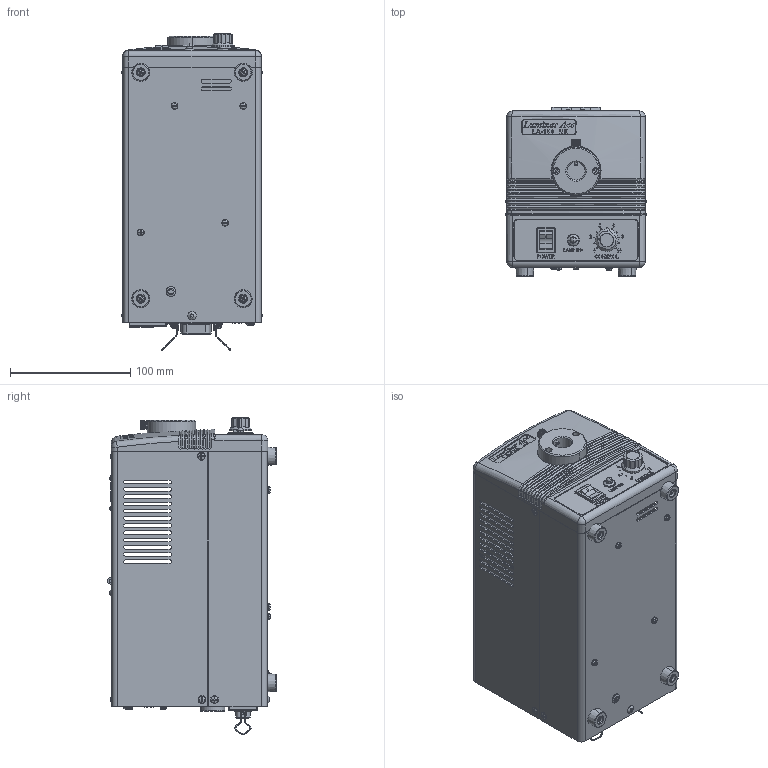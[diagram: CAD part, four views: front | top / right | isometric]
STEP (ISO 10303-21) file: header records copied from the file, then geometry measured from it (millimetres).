
FILE_DESCRIPTION (( 'STEP AP203' ), '1' );
FILE_NAME ('新LA-150UE.STEP', '2022-02-02T05:10:51', ( '' ), ( '' ), 'SwSTEP 2.0', 'SolidWorks 2021', '' );
FILE_SCHEMA (( 'CONFIG_CONTROL_DESIGN' ));
Length unit declared in the file: millimetre
Products named in the file (52): M3×5L十字穴付ﾄﾗｽ; 385-215-3【背面化粧ﾊﾟﾈﾙ】; CB-1KK-3MM【LEX】; 【LA-150UE】銘板; 蓋止めTL-15A; SL10K2-5-Z_r; LEDﾌﾞﾗｹｯﾄDB-40-NL-BRｻﾄｰﾊﾟｰﾂ; AC翌痧顛C-P11CS35(EDK); 奧巭傔TL-15A谑薨; 385-214-0亂攚柺蔬荣亃; T1050-112-0【ﾎﾞｯｸｽ】; 奧巭傔TL-15A棘棠; 小形丸平座金M3_3P用; ｷｬｯﾌﾟｽｸﾘｭｰM3x10L黒ｸﾛﾒｰﾄ; 兽葝缷郙3_3P梡; 无丨把RV16YN15SB103搶嫗航咏揹婡; M3×5L十字穴付丸皿小ﾈｼﾞ; 線材; 03-00板金; ﾛｯｶｰｽｲｯﾁﾎﾞﾃﾞｨ; 挶斣TH-TM-76棘棠; FH-B12乮汰敖尬倮迠O榞乯; 新LA-150UE; 十字穴付ﾅﾍﾞ小ﾈｼﾞM4x35L; 蓋; 345-230-0【ｽｲｯﾁﾊﾟﾈﾙ】; 挶斣TH-TM-76蔬奥1; SDS-101D-3-C-A【ｽﾗｲﾄﾞｽｲｯﾁ】ｼﾝﾃﾞﾝ; T99-116-6【蓋】; 枌袉暊睕俅紕NS_A5-2; BU-4805-Bﾌﾟﾗ足; 蓋止めTL-15Aﾗｯﾁ; 挶斣TH-TM-76蔬奥2; ﾅﾍﾞ小ﾈｼﾞM3×6L3P用; T264-112-4【ﾎﾞｯｸｽｶﾊﾞｰ】; 165-111-1亂慜柺蔬荣亃; SL10K2-5-Zanzai; 无丨把RV16YN15SB103梡榋妏暖腗6亊0.75; 蝶番TH_TM_76; FH-B12亂汰敖尬倮迊z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
Assembly tree (94 placements, depth 4):
  新LA-150UE
    165-111-1亂慜柺蔬荣亃
    T1050-112-0【ﾎﾞｯｸｽ】
    T264-112-4【ﾎﾞｯｸｽｶﾊﾞｰ】
    385-214-0亂攚柺蔬荣亃
    385-215-3【背面化粧ﾊﾟﾈﾙ】
    T99-116-6【蓋】
      蓋
      蝶番TH_TM_76
        挶斣TH-TM-76棘棠
        挶斣TH-TM-76蔬奥1
        挶斣TH-TM-76蔬奥2
      蓋止めTL-15A
        奧巭傔TL-15A娃敖
        奧巭傔TL-15A棘棠
        奧巭傔TL-15A谑薨
        蓋止めTL-15Aﾗｯﾁ
        奧巭傔TL-15A妒薨
        蓋止めTL-15Aﾘﾍﾞｯﾄ  x2
      cross recessed pan head screw_jis_十字穴付ﾅﾍﾞ小ﾈｼﾞM2x4L  x4
    T1023-6500-1亂燃迬~傔岥嬥亃
    暯摢郯诏乃藿M3亊15L
    BU-4805-Bﾌﾟﾗ足  x4
    345-230-0【ｽｲｯﾁﾊﾟﾈﾙ】
    AC翌痧顛C-P11CS35(EDK)
    SDS-101D-3-C-A【ｽﾗｲﾄﾞｽｲｯﾁ】ｼﾝﾃﾞﾝ  x2
      03-00板金
      03-00ｽﾗｲﾄﾞ部
    ｷｬｯﾌﾟｽｸﾘｭｰM3x10L黒ｸﾛﾒｰﾄ  x2
    M3×6L3P十字穴付ﾅﾍﾞ小ﾈｼﾞ  x4
      ﾅﾍﾞ小ﾈｼﾞM3×6L3P用
      兽葝缷郙3_3P梡
      小形丸平座金M3_3P用
    M3×5L十字穴付ﾄﾗｽ  x3
    M3×5L十字穴付丸皿小ﾈｼﾞ  x8
    十字穴付ﾅﾍﾞ小ﾈｼﾞM4x35L  x3
    【LA-150UE】銘板
    兽葝缷郙3_3P梡  x10
    ﾅﾍﾞ小ﾈｼﾞM3×6L3P用  x9
    SL10K2-5-Zanzai
      ﾛｯｶｰｽｲｯﾁﾎﾞﾃﾞｨ
      SL10K2-5-Z_r
    LEDﾌﾞﾗｹｯﾄDB-40-NL-BRｻﾄｰﾊﾟｰﾂ
    CB-1KK-3MM【LEX】
    无丨把RV16YN15SB103搶嫗航咏揹婡
    无丨把RV16YN15SB103梡榋妏暖腗6亊0.75
    无丨把RV16YN15SB103梡暯嵗嬥
    DP312亂伟偬咦皋亃
    FH-B12亂汰敖尬倮迊z
      FH-B12乮汰敖尬倮迠O榞乯
      FH-B12乮汰敖尬倮迵鄻g乯
    57-40140
    線材  x2
    枌袉暊睕俅紕NS_A5-2
Bounding box: 116.31 x 140.3 x 262.98 mm (x, y, z)
Volume: 303116.6 mm3; surface area: 357303.9 mm2
Topology: 93 solids, 95 shells, 5612 faces, 14613 edges, 9402 vertices
Faces by surface type: plane 2799, cylinder 1355, bspline 1008, cone 266, torus 148, sphere 36
Entity records: 179692 total; most frequent: CARTESIAN_POINT 67573, ORIENTED_EDGE 23380, DIRECTION 18994, EDGE_CURVE 11691, VERTEX_POINT 7564, VECTOR 7160, LINE 7160, AXIS2_PLACEMENT_3D 5917
